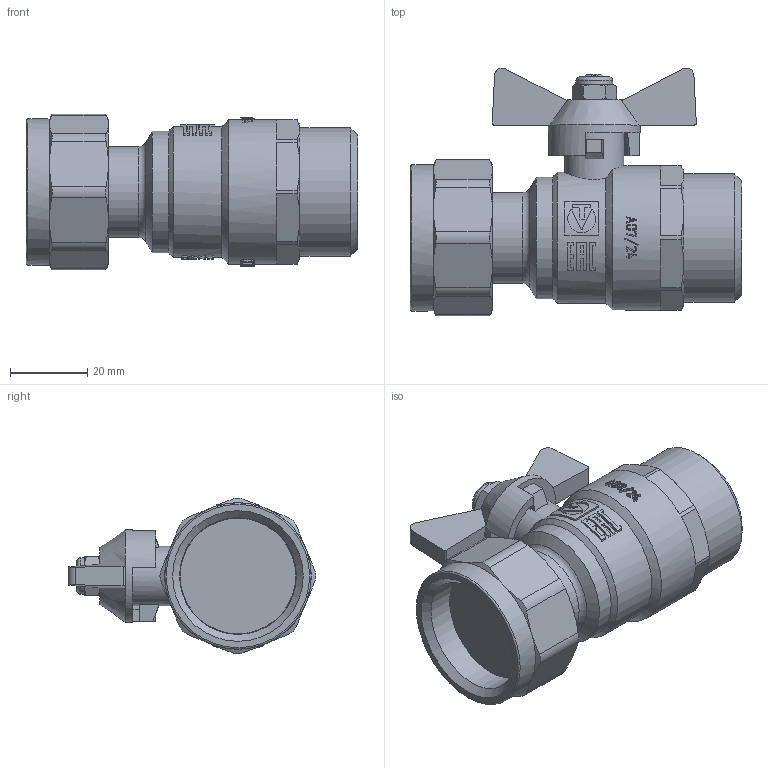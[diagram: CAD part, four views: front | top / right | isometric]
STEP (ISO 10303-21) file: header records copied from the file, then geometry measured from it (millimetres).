
FILE_DESCRIPTION(('STEP AP203'), '1');
FILE_NAME('VT.260.N.0606', '', ('UNSPECIFIED'), ('UNSPECIFIED'), 'C3D Converter', 'C3D Toolkit', '');
FILE_SCHEMA(('CONFIG_CONTROL_DESIGN'));
Length unit declared in the file: millimetre
Products named in the file (1): ВР.491816.045.000 СБ
Bounding box: 85.98 x 64.32 x 40.47 mm (x, y, z)
Volume: 71245.4 mm3; surface area: 22020.1 mm2
Topology: 3 solids, 7 shells, 686 faces, 1822 edges, 1193 vertices
Faces by surface type: plane 277, extrusion 227, cylinder 118, cone 55, torus 9
Full cylindrical faces by diameter (mm): 6 x1, 9.5 x1, 10.5 x1, 12 x1, 15.4 x1, 23.6 x1, 24 x2, 27.1 x1, 30 x1, 30.2 x1, 30.292 x1, 30.4 x1, 31.6 x1, 33.249 x1, 33.4 x1, 34 x1, 37.5 x1, 38 x1
Entity records: 31946 total; most frequent: CARTESIAN_POINT 16402, ORIENTED_EDGE 3552, DIRECTION 2444, EDGE_CURVE 1776, VERTEX_POINT 1189, VECTOR 948, B_SPLINE_CURVE_WITH_KNOTS 895, EDGE_LOOP 771
